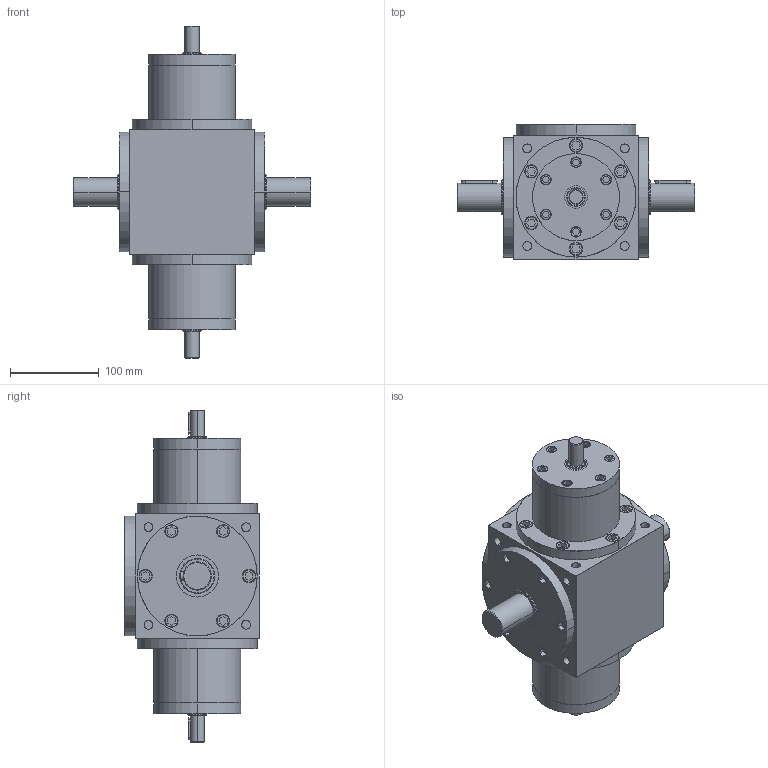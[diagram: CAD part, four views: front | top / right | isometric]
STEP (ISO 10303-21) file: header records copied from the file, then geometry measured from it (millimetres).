
FILE_DESCRIPTION (( 'STEP AP203' ), '1' );
FILE_NAME ('VSAF14-1£º1.5-I.step', '2018-07-14T09:30:07', ( 'IT Division' ), ( 'IT' ), 'SwSTEP 2.0', 'SolidWorks 2016', '' );
FILE_SCHEMA (( 'CONFIG_CONTROL_DESIGN' ));
Length unit declared in the file: millimetre
Products named in the file (1): VSAF14-1：1.5-I
Bounding box: 268 x 152 x 374 mm (x, y, z)
Volume: 4768331.9 mm3; surface area: 251423.6 mm2
Topology: 3 solids, 3 shells, 907 faces, 2022 edges, 1260 vertices
Faces by surface type: plane 443, cylinder 346, torus 94, cone 16, sphere 8
Entity records: 25335 total; most frequent: CARTESIAN_POINT 4828, DIRECTION 4476, ORIENTED_EDGE 4028, EDGE_CURVE 2014, AXIS2_PLACEMENT_3D 1692, VERTEX_POINT 1260, LINE 1092, VECTOR 1092
